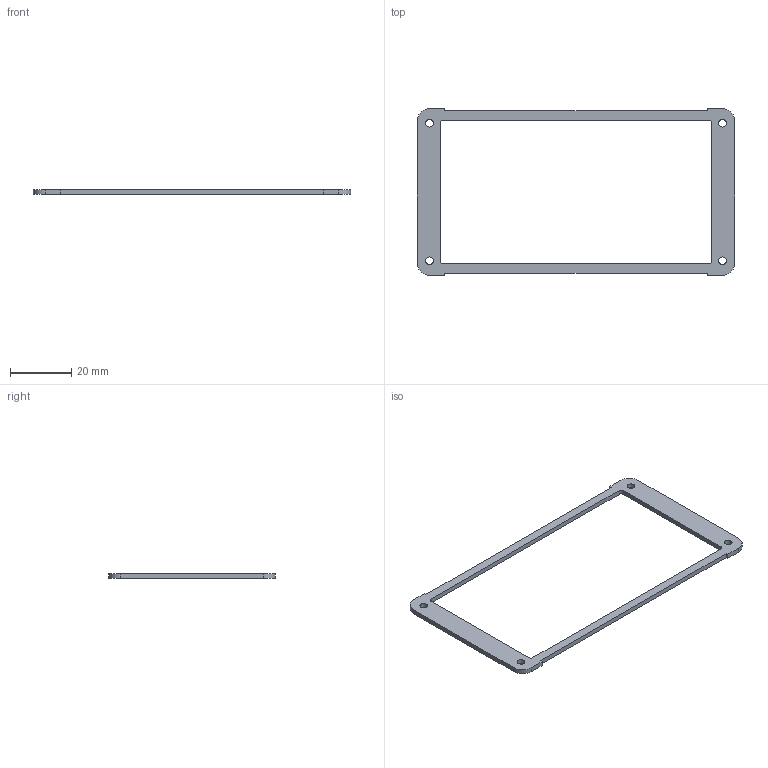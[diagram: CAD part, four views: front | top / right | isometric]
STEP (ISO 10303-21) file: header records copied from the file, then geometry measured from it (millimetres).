
FILE_DESCRIPTION(/* description */ (''),/* implementation_level */ '2;1');
FILE_NAME(/* name */ '1457NPG-10.stp',/* time_stamp */ '2024-09-03T11:37:12-04:00',/* author */ ('tfoster'),/* organization */ (''),/* preprocessor_version */ 'ST-DEVELOPER v20',/* originating_system */ 'Autodesk Inventor 2024',/* authorisation */ '');
FILE_SCHEMA (('AUTOMOTIVE_DESIGN { 1 0 10303 214 3 1 1 }'));
Length unit declared in the file: millimetre
Products named in the file (1): 1457N1201 Gasket
Bounding box: 104 x 54.6 x 1.57 mm (x, y, z)
Volume: 2086.6 mm3; surface area: 3618.8 mm2
Topology: 1 solids, 1 shells, 30 faces, 84 edges, 56 vertices
Faces by surface type: plane 18, cylinder 12
Full cylindrical faces by diameter (mm): 2.5 x4
Entity records: 1035 total; most frequent: CARTESIAN_POINT 171, DIRECTION 170, ORIENTED_EDGE 168, EDGE_CURVE 84, LINE 60, VECTOR 60, VERTEX_POINT 56, AXIS2_PLACEMENT_3D 55
